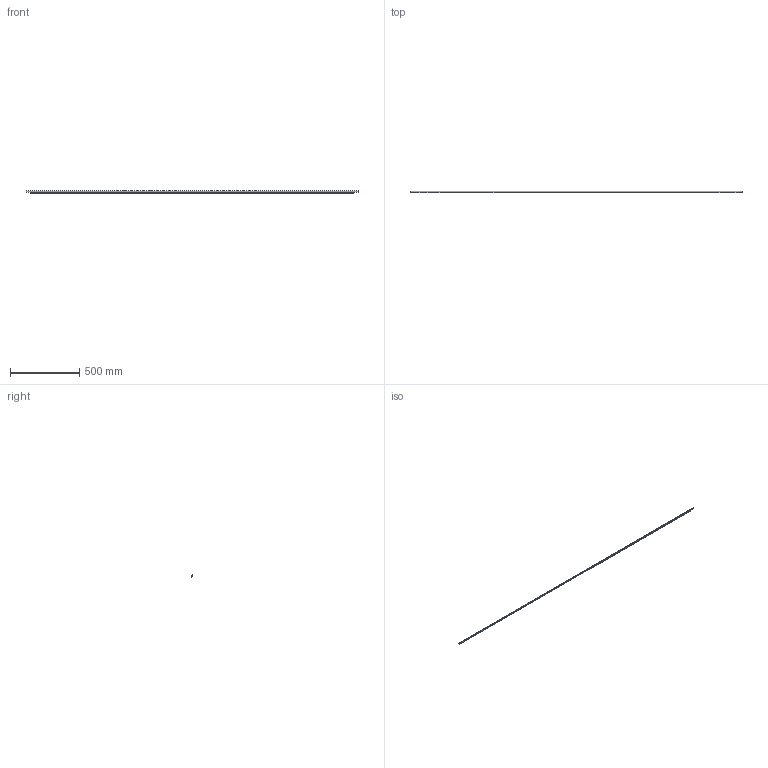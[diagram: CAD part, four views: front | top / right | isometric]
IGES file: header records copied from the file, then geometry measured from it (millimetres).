
Start section: Data from Parasolid IGES Translator 20.0.26, Copyright(c) 2006 Siemens P LM Software. All Rights Reserved.
Global section: file name: 9266102.igs; native system: By Siemens PLM Incorporated; preprocessor: XPlus GENERIC/IGES 20.0.26; author: Noname; organization: Noname; date: 20230313.143818; units: millimetre
Bounding box: 2400 x 12.49 x 18 mm (x, y, z)
Surface area: 142079.6 mm2 (no closed solid volume)
Topology: 0 solids, 0 shells, 29 faces, 156 edges, 156 vertices
Faces by surface type: extrusion 25, revolution 4
